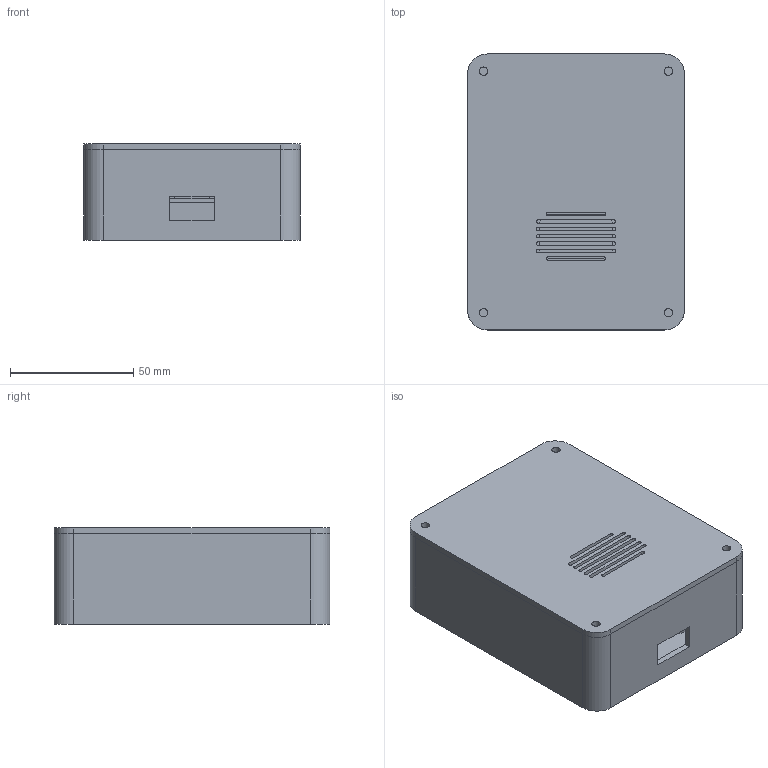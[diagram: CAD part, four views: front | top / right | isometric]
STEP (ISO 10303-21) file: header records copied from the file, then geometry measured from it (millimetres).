
FILE_DESCRIPTION(('Open CASCADE Model'),'2;1');
FILE_NAME('Open CASCADE Shape Model','2026-09-20T14:56:49',('Author'),( 'Open CASCADE'),'Open CASCADE STEP processor 7.9','Open CASCADE 7.9' ,'Unknown');
FILE_SCHEMA(('AUTOMOTIVE_DESIGN { 1 0 10303 214 1 1 1 1 }'));
Length unit declared in the file: millimetre
Products named in the file (5): Lantern_service_case_v01; front_shell; rear_lid; battery_tray; speaker_retainer
Assembly tree (4 placements, depth 2):
  Lantern_service_case_v01
    front_shell
    rear_lid
    battery_tray
    speaker_retainer
Bounding box: 88 x 112 x 39 mm (x, y, z)
Volume: 96993.7 mm3; surface area: 84715.8 mm2
Topology: 4 solids, 4 shells, 316 faces, 825 edges, 549 vertices
Faces by surface type: plane 203, cylinder 113
Full cylindrical faces by diameter (mm): 2.1 x10, 2.8 x6, 3.4 x8, 5 x1, 6.4 x4, 6.8 x2, 7.6 x4
Entity records: 20548 total; most frequent: CARTESIAN_POINT 4299, DIRECTION 2867, ORIENTED_EDGE 1650, PCURVE 1650, DEFINITIONAL_REPRESENTATION 1650, LINE 1617, VECTOR 1617, EDGE_CURVE 825
